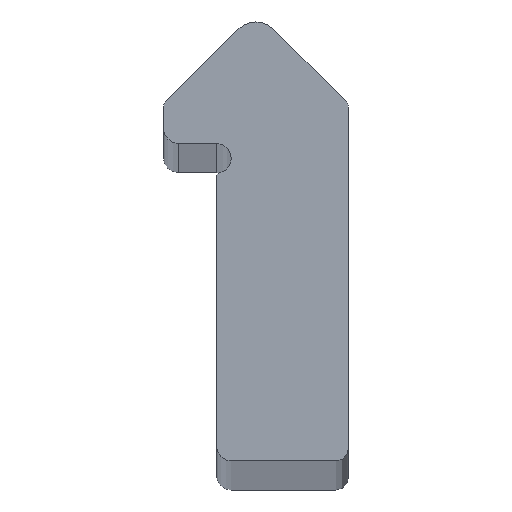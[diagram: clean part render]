
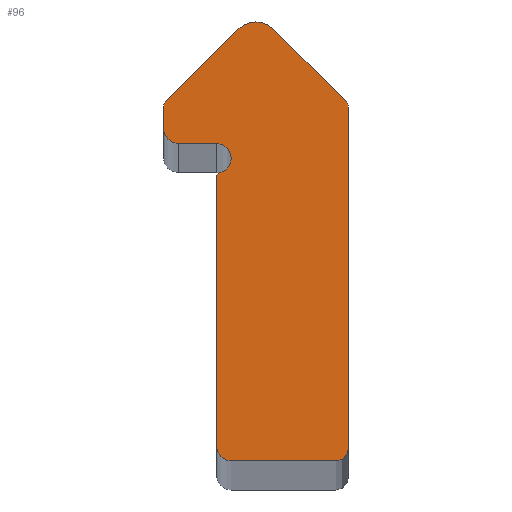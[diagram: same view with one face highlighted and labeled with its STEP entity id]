
A CAD part, top view. The second image highlights one B-rep face of the part: STEP entity #96.
In plain terms, the highlighted planar face has unit normal (0, 0, 1).
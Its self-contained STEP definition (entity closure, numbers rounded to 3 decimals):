
#96=ADVANCED_FACE('',(#117),#118,.F.);
#117=FACE_OUTER_BOUND('',#151,.T.);
#118=PLANE('',#152);
#151=EDGE_LOOP('',(#211,#212,#213,#214,#215,#216,#217,#218,#219,#220,#221,#222,#223,#224,#225));
#152=AXIS2_PLACEMENT_3D('',#226,#227,#228);
#211=ORIENTED_EDGE('',*,*,#338,.F.);
#212=ORIENTED_EDGE('',*,*,#320,.T.);
#213=ORIENTED_EDGE('',*,*,#340,.F.);
#214=ORIENTED_EDGE('',*,*,#341,.F.);
#215=ORIENTED_EDGE('',*,*,#342,.F.);
#216=ORIENTED_EDGE('',*,*,#343,.F.);
#217=ORIENTED_EDGE('',*,*,#344,.F.);
#218=ORIENTED_EDGE('',*,*,#345,.F.);
#219=ORIENTED_EDGE('',*,*,#346,.F.);
#220=ORIENTED_EDGE('',*,*,#347,.F.);
#221=ORIENTED_EDGE('',*,*,#348,.F.);
#222=ORIENTED_EDGE('',*,*,#349,.F.);
#223=ORIENTED_EDGE('',*,*,#350,.F.);
#224=ORIENTED_EDGE('',*,*,#351,.F.);
#225=ORIENTED_EDGE('',*,*,#352,.F.);
#226=CARTESIAN_POINT('',(-2.735,12.278,1000.0));
#227=DIRECTION('',(0.0,0.0,-1.0));
#228=DIRECTION('',(0.0,-1.0,0.0));
#320=EDGE_CURVE('',#365,#366,#367,.T.);
#338=EDGE_CURVE('',#365,#400,#401,.T.);
#340=EDGE_CURVE('',#403,#366,#404,.T.);
#341=EDGE_CURVE('',#405,#403,#406,.T.);
#342=EDGE_CURVE('',#407,#405,#408,.T.);
#343=EDGE_CURVE('',#409,#407,#410,.T.);
#344=EDGE_CURVE('',#411,#409,#412,.T.);
#345=EDGE_CURVE('',#413,#411,#414,.T.);
#346=EDGE_CURVE('',#415,#413,#416,.T.);
#347=EDGE_CURVE('',#417,#415,#418,.T.);
#348=EDGE_CURVE('',#419,#417,#420,.T.);
#349=EDGE_CURVE('',#421,#419,#422,.T.);
#350=EDGE_CURVE('',#423,#421,#424,.T.);
#351=EDGE_CURVE('',#425,#423,#426,.T.);
#352=EDGE_CURVE('',#400,#425,#427,.T.);
#365=VERTEX_POINT('',#440);
#366=VERTEX_POINT('',#441);
#367=CIRCLE('',#442,1.52);
#400=VERTEX_POINT('',#484);
#401=LINE('',#485,#486);
#403=VERTEX_POINT('',#489);
#404=LINE('',#490,#491);
#405=VERTEX_POINT('',#492);
#406=CIRCLE('',#493,0.445);
#407=VERTEX_POINT('',#494);
#408=LINE('',#495,#496);
#409=VERTEX_POINT('',#497);
#410=CIRCLE('',#498,0.889);
#411=VERTEX_POINT('',#499);
#412=LINE('',#500,#501);
#413=VERTEX_POINT('',#502);
#414=CIRCLE('',#503,0.889);
#415=VERTEX_POINT('',#504);
#416=CIRCLE('',#505,0.254);
#417=VERTEX_POINT('',#506);
#418=LINE('',#507,#508);
#419=VERTEX_POINT('',#509);
#420=CIRCLE('',#510,0.889);
#421=VERTEX_POINT('',#511);
#422=LINE('',#512,#513);
#423=VERTEX_POINT('',#514);
#424=CIRCLE('',#515,0.762);
#425=VERTEX_POINT('',#516);
#426=LINE('',#517,#518);
#427=CIRCLE('',#519,0.444);
#440=CARTESIAN_POINT('',(3.435,16.927,1000.0));
#441=CARTESIAN_POINT('',(1.285,16.927,1000.0));
#442=AXIS2_PLACEMENT_3D('',#544,#545,#546);
#484=CARTESIAN_POINT('',(7.79,12.572,1000.0));
#485=CARTESIAN_POINT('',(2.36,18.002,1000.0));
#486=VECTOR('',#580,1.0);
#489=CARTESIAN_POINT('',(-3.05,12.592,1000.0));
#490=CARTESIAN_POINT('',(-3.05,12.592,1000.0));
#491=VECTOR('',#582,1.0);
#492=CARTESIAN_POINT('',(-3.18,12.278,1000.0));
#493=AXIS2_PLACEMENT_3D('',#583,#584,#585);
#494=CARTESIAN_POINT('',(-3.18,10.971,1000.0));
#495=CARTESIAN_POINT('',(-3.18,10.971,1000.0));
#496=VECTOR('',#586,1.0);
#497=CARTESIAN_POINT('',(-2.291,10.082,1000.0));
#498=AXIS2_PLACEMENT_3D('',#587,#588,#589);
#499=CARTESIAN_POINT('',(0.,10.082,1000.0));
#500=CARTESIAN_POINT('',(0.,10.082,1000.0));
#501=VECTOR('',#590,1.0);
#502=CARTESIAN_POINT('',(0.198,8.326,1000.0));
#503=AXIS2_PLACEMENT_3D('',#591,#592,#593);
#504=CARTESIAN_POINT('',(0.,8.079,1000.0));
#505=AXIS2_PLACEMENT_3D('',#594,#595,#596);
#506=CARTESIAN_POINT('',(0.,-8.079,1000.0));
#507=CARTESIAN_POINT('',(0.,-8.079,1000.0));
#508=VECTOR('',#597,1.0);
#509=CARTESIAN_POINT('',(0.889,-8.968,1000.0));
#510=AXIS2_PLACEMENT_3D('',#598,#599,#600);
#511=CARTESIAN_POINT('',(7.158,-8.968,1000.0));
#512=CARTESIAN_POINT('',(7.158,-8.968,1000.0));
#513=VECTOR('',#601,1.0);
#514=CARTESIAN_POINT('',(7.92,-8.206,1000.0));
#515=AXIS2_PLACEMENT_3D('',#602,#603,#604);
#516=CARTESIAN_POINT('',(7.92,12.258,1000.0));
#517=CARTESIAN_POINT('',(7.92,12.258,1000.0));
#518=VECTOR('',#605,1.0);
#519=AXIS2_PLACEMENT_3D('',#606,#607,#608);
#544=CARTESIAN_POINT('',(2.36,15.853,1000.0));
#545=DIRECTION('',(0.0,0.0,1.0));
#546=DIRECTION('',(-1.0,0.0,0.0));
#580=DIRECTION('',(0.707,-0.707,0.0));
#582=DIRECTION('',(0.707,0.707,0.0));
#583=CARTESIAN_POINT('',(-2.735,12.278,1000.0));
#584=DIRECTION('',(0.0,0.0,-1.0));
#585=DIRECTION('',(1.0,0.,0.0));
#586=DIRECTION('',(0.0,1.0,0.0));
#587=CARTESIAN_POINT('',(-2.291,10.971,1000.0));
#588=DIRECTION('',(0.0,0.0,-1.0));
#589=DIRECTION('',(1.0,0.,0.0));
#590=DIRECTION('',(-1.0,0.,0.0));
#591=CARTESIAN_POINT('',(0.,9.193,1000.0));
#592=DIRECTION('',(0.0,-0.0,1.0));
#593=DIRECTION('',(1.0,0.,0.0));
#594=CARTESIAN_POINT('',(0.254,8.079,1000.0));
#595=DIRECTION('',(0.0,0.0,-1.0));
#596=DIRECTION('',(1.0,0.,0.0));
#597=DIRECTION('',(0.0,1.0,0.0));
#598=CARTESIAN_POINT('',(0.889,-8.079,1000.0));
#599=DIRECTION('',(0.0,0.0,-1.0));
#600=DIRECTION('',(1.0,0.,0.0));
#601=DIRECTION('',(-1.0,0.,0.0));
#602=CARTESIAN_POINT('',(7.158,-8.206,1000.0));
#603=DIRECTION('',(0.0,0.0,-1.0));
#604=DIRECTION('',(1.0,0.,0.0));
#605=DIRECTION('',(0.0,-1.0,0.0));
#606=CARTESIAN_POINT('',(7.476,12.258,1000.0));
#607=DIRECTION('',(0.0,0.0,-1.0));
#608=DIRECTION('',(1.0,0.,0.0));
